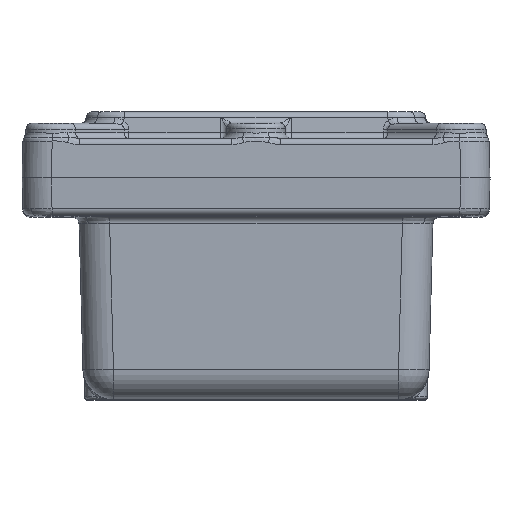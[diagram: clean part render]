
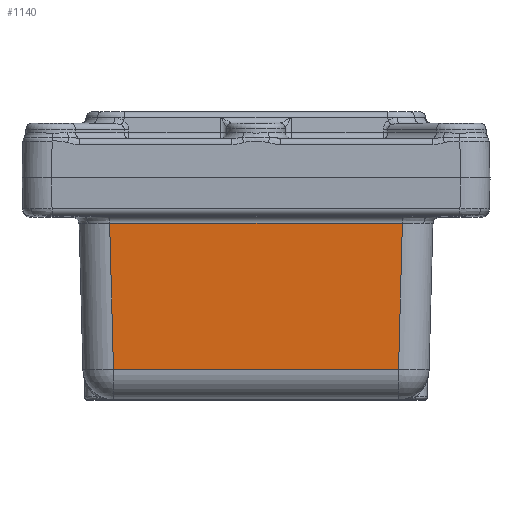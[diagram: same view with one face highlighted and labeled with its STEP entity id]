
A CAD part, top view. The second image highlights one B-rep face of the part: STEP entity #1140.
In plain terms, the highlighted planar face has unit normal (0, -0.026, 1).
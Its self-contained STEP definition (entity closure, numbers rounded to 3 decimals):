
#1140=ADVANCED_FACE('',(#13799),#13801,.T.);
#13799=FACE_BOUND('',#13800,.T.);
#13800=EDGE_LOOP('',(#27591,#27592,#27593,#27594));
#13801=PLANE('',#13802);
#13802=AXIS2_PLACEMENT_3D('',#13803,#13804,#13805);
#13803=CARTESIAN_POINT('',(69.615,-15.,119.615));
#13804=DIRECTION('',(0.,-0.026,1.));
#13805=DIRECTION('',(0.,-1.,-0.026));
#27591=ORIENTED_EDGE('',*,*,#33938,.T.);
#27592=ORIENTED_EDGE('',*,*,#33932,.T.);
#27593=ORIENTED_EDGE('',*,*,#33891,.T.);
#27594=ORIENTED_EDGE('',*,*,#33847,.T.);
#33847=EDGE_CURVE('',#37260,#37262,#37264,.T.);
#33891=EDGE_CURVE('',#37330,#37260,#37331,.T.);
#33932=EDGE_CURVE('',#37394,#37330,#37395,.T.);
#33938=EDGE_CURVE('',#37262,#37394,#37403,.T.);
#37260=VERTEX_POINT('',#45594);
#37262=VERTEX_POINT('',#45599);
#37264=LINE('',#45604,#45605);
#37330=VERTEX_POINT('',#46606);
#37331=LINE('',#46607,#46608);
#37394=VERTEX_POINT('',#47357);
#37395=LINE('',#47358,#47359);
#37403=LINE('',#47496,#47497);
#45594=CARTESIAN_POINT('',(-56.04,-75.314,118.036));
#45599=CARTESIAN_POINT('',(56.04,-75.314,118.036));
#45604=CARTESIAN_POINT('',(-56.04,-75.314,118.036));
#45605=VECTOR('',#45606,1.);
#45606=DIRECTION('',(1.,0.,0.));
#46606=CARTESIAN_POINT('',(-57.543,-17.921,119.538));
#46607=CARTESIAN_POINT('',(-57.543,-17.921,119.538));
#46608=VECTOR('',#46609,1.);
#46609=DIRECTION('',(0.026,-0.999,-0.026));
#47357=CARTESIAN_POINT('',(57.543,-17.921,119.538));
#47358=CARTESIAN_POINT('',(57.543,-17.921,119.538));
#47359=VECTOR('',#47360,1.);
#47360=DIRECTION('',(-1.,0.,0.));
#47496=CARTESIAN_POINT('',(56.04,-75.314,118.036));
#47497=VECTOR('',#47498,1.);
#47498=DIRECTION('',(0.026,0.999,0.026));
